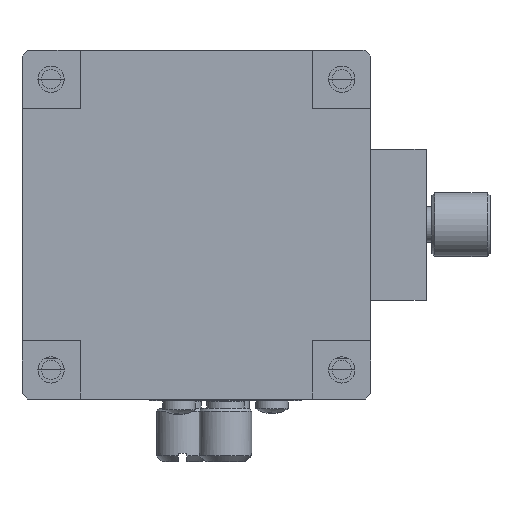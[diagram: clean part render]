
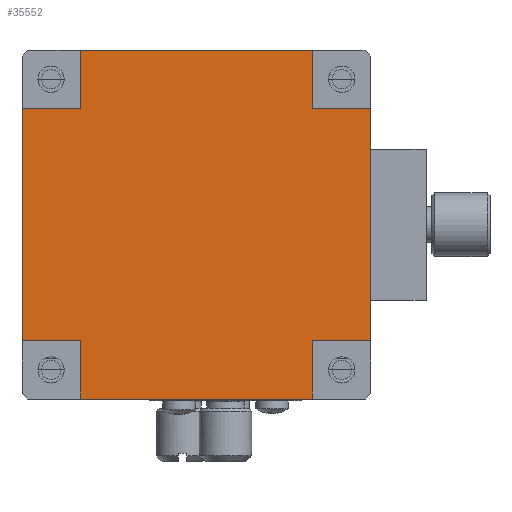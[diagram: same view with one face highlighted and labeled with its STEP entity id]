
A CAD part, front view. The second image highlights one B-rep face of the part: STEP entity #35552.
In plain terms, the highlighted planar face has unit normal (0, -1, 0).
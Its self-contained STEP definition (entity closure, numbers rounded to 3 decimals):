
#47 = EDGE_LOOP ( 'NONE', ( #49908, #24698, #41148, #45620, #40937, #41064, #45623, #17356, #1731, #45186, #38950, #38150 ) ) ;
#172 = EDGE_CURVE ( 'NONE', #12143, #28026, #36243, .T. ) ;
#556 = CARTESIAN_POINT ( 'NONE',  ( 36.897, -16.6, 30.907 ) ) ;
#1171 = CARTESIAN_POINT ( 'NONE',  ( 26.897, -16.6, 90.907 ) ) ;
#1731 = ORIENTED_EDGE ( 'NONE', *, *, #9449, .F. ) ;
#1780 = VERTEX_POINT ( 'NONE', #16676 ) ;
#2602 = DIRECTION ( 'NONE',  ( 0., 0., 1. ) ) ;
#3035 = CARTESIAN_POINT ( 'NONE',  ( -23.103, -16.6, 40.907 ) ) ;
#3746 = CARTESIAN_POINT ( 'NONE',  ( 26.897, -16.6, 90.907 ) ) ;
#3787 = VECTOR ( 'NONE', #2602, 1000. ) ;
#5314 = DIRECTION ( 'NONE',  ( 0., 0., -1. ) ) ;
#5687 = VECTOR ( 'NONE', #49436, 1000. ) ;
#5809 = EDGE_CURVE ( 'NONE', #1780, #28026, #29709, .T. ) ;
#6186 = CARTESIAN_POINT ( 'NONE',  ( 6.897, -16.6, 60.907 ) ) ;
#6778 = EDGE_CURVE ( 'NONE', #48343, #7646, #13045, .T. ) ;
#6939 = LINE ( 'NONE', #22176, #48391 ) ;
#6964 = EDGE_CURVE ( 'NONE', #48343, #1780, #27724, .T. ) ;
#7587 = CARTESIAN_POINT ( 'NONE',  ( 26.897, -16.6, 30.907 ) ) ;
#7646 = VERTEX_POINT ( 'NONE', #10541 ) ;
#7837 = DIRECTION ( 'NONE',  ( 1., 0., 0. ) ) ;
#8013 = CARTESIAN_POINT ( 'NONE',  ( 36.897, -16.6, 90.907 ) ) ;
#8198 = EDGE_CURVE ( 'NONE', #12143, #26354, #29016, .T. ) ;
#8424 = CARTESIAN_POINT ( 'NONE',  ( 36.897, -16.6, 90.907 ) ) ;
#8491 = VERTEX_POINT ( 'NONE', #28893 ) ;
#9394 = DIRECTION ( 'NONE',  ( 0., 0., -1. ) ) ;
#9449 = EDGE_CURVE ( 'NONE', #16136, #8491, #16929, .T. ) ;
#10541 = CARTESIAN_POINT ( 'NONE',  ( -23.103, -16.6, 40.907 ) ) ;
#11630 = AXIS2_PLACEMENT_3D ( 'NONE', #6186, #22164, #49685 ) ;
#12008 = LINE ( 'NONE', #29911, #5687 ) ;
#12143 = VERTEX_POINT ( 'NONE', #3746 ) ;
#12154 = VERTEX_POINT ( 'NONE', #7587 ) ;
#12457 = CARTESIAN_POINT ( 'NONE',  ( 36.897, -16.6, 40.907 ) ) ;
#12698 = DIRECTION ( 'NONE',  ( 0., 0., -1. ) ) ;
#13045 = LINE ( 'NONE', #40613, #13701 ) ;
#13502 = EDGE_CURVE ( 'NONE', #24707, #7646, #26782, .T. ) ;
#13701 = VECTOR ( 'NONE', #5314, 1000. ) ;
#14124 = DIRECTION ( 'NONE',  ( -1., 0., 0. ) ) ;
#15234 = CARTESIAN_POINT ( 'NONE',  ( -13.103, -16.6, 90.907 ) ) ;
#16136 = VERTEX_POINT ( 'NONE', #12457 ) ;
#16676 = CARTESIAN_POINT ( 'NONE',  ( -13.103, -16.6, 80.907 ) ) ;
#16929 = LINE ( 'NONE', #32658, #25412 ) ;
#17101 = VERTEX_POINT ( 'NONE', #25457 ) ;
#17356 = ORIENTED_EDGE ( 'NONE', *, *, #38095, .F. ) ;
#17814 = VECTOR ( 'NONE', #7837, 1000. ) ;
#19665 = EDGE_CURVE ( 'NONE', #47525, #16136, #31485, .T. ) ;
#19701 = CARTESIAN_POINT ( 'NONE',  ( -23.103, -16.6, 80.907 ) ) ;
#19886 = DIRECTION ( 'NONE',  ( 0., 0., -1. ) ) ;
#21415 = PLANE ( 'NONE',  #11630 ) ;
#22164 = DIRECTION ( 'NONE',  ( 0., -1., 0. ) ) ;
#22176 = CARTESIAN_POINT ( 'NONE',  ( 36.897, -16.6, 80.907 ) ) ;
#24592 = VECTOR ( 'NONE', #12698, 1000. ) ;
#24698 = ORIENTED_EDGE ( 'NONE', *, *, #5809, .F. ) ;
#24707 = VERTEX_POINT ( 'NONE', #39657 ) ;
#25412 = VECTOR ( 'NONE', #28819, 1000. ) ;
#25457 = CARTESIAN_POINT ( 'NONE',  ( -13.103, -16.6, 30.907 ) ) ;
#26354 = VERTEX_POINT ( 'NONE', #43862 ) ;
#26782 = LINE ( 'NONE', #3035, #36162 ) ;
#26882 = LINE ( 'NONE', #556, #47579 ) ;
#27724 = LINE ( 'NONE', #19701, #17814 ) ;
#27801 = VECTOR ( 'NONE', #9394, 1000. ) ;
#28026 = VERTEX_POINT ( 'NONE', #15234 ) ;
#28819 = DIRECTION ( 'NONE',  ( -1., 0., 0. ) ) ;
#28893 = CARTESIAN_POINT ( 'NONE',  ( 26.897, -16.6, 40.907 ) ) ;
#29016 = LINE ( 'NONE', #1171, #27801 ) ;
#29260 = CARTESIAN_POINT ( 'NONE',  ( -23.103, -16.6, 80.907 ) ) ;
#29709 = LINE ( 'NONE', #38153, #3787 ) ;
#29911 = CARTESIAN_POINT ( 'NONE',  ( -13.103, -16.6, 30.907 ) ) ;
#31405 = EDGE_CURVE ( 'NONE', #17101, #12154, #26882, .T. ) ;
#31485 = LINE ( 'NONE', #8013, #37323 ) ;
#31661 = EDGE_CURVE ( 'NONE', #26354, #47525, #6939, .T. ) ;
#32658 = CARTESIAN_POINT ( 'NONE',  ( 36.897, -16.6, 40.907 ) ) ;
#33124 = VECTOR ( 'NONE', #47823, 1000. ) ;
#35552 = ADVANCED_FACE ( 'NONE', ( #45346 ), #21415, .T. ) ;
#36162 = VECTOR ( 'NONE', #14124, 1000. ) ;
#36243 = LINE ( 'NONE', #8424, #33124 ) ;
#36398 = LINE ( 'NONE', #39232, #24592 ) ;
#37323 = VECTOR ( 'NONE', #19886, 1000. ) ;
#38095 = EDGE_CURVE ( 'NONE', #8491, #12154, #36398, .T. ) ;
#38150 = ORIENTED_EDGE ( 'NONE', *, *, #8198, .F. ) ;
#38153 = CARTESIAN_POINT ( 'NONE',  ( -13.103, -16.6, 90.907 ) ) ;
#38680 = EDGE_CURVE ( 'NONE', #17101, #24707, #12008, .T. ) ;
#38950 = ORIENTED_EDGE ( 'NONE', *, *, #31661, .F. ) ;
#39232 = CARTESIAN_POINT ( 'NONE',  ( 26.897, -16.6, 30.907 ) ) ;
#39657 = CARTESIAN_POINT ( 'NONE',  ( -13.103, -16.6, 40.907 ) ) ;
#40613 = CARTESIAN_POINT ( 'NONE',  ( -23.103, -16.6, 90.907 ) ) ;
#40937 = ORIENTED_EDGE ( 'NONE', *, *, #13502, .F. ) ;
#41064 = ORIENTED_EDGE ( 'NONE', *, *, #38680, .F. ) ;
#41148 = ORIENTED_EDGE ( 'NONE', *, *, #6964, .F. ) ;
#43862 = CARTESIAN_POINT ( 'NONE',  ( 26.897, -16.6, 80.907 ) ) ;
#45186 = ORIENTED_EDGE ( 'NONE', *, *, #19665, .F. ) ;
#45346 = FACE_OUTER_BOUND ( 'NONE', #47, .T. ) ;
#45620 = ORIENTED_EDGE ( 'NONE', *, *, #6778, .T. ) ;
#45623 = ORIENTED_EDGE ( 'NONE', *, *, #31405, .T. ) ;
#46282 = CARTESIAN_POINT ( 'NONE',  ( 36.897, -16.6, 80.907 ) ) ;
#47167 = DIRECTION ( 'NONE',  ( 1., 0., 0. ) ) ;
#47525 = VERTEX_POINT ( 'NONE', #46282 ) ;
#47579 = VECTOR ( 'NONE', #47167, 1000. ) ;
#47823 = DIRECTION ( 'NONE',  ( -1., 0., 0. ) ) ;
#48343 = VERTEX_POINT ( 'NONE', #29260 ) ;
#48391 = VECTOR ( 'NONE', #49943, 1000. ) ;
#49436 = DIRECTION ( 'NONE',  ( 0., 0., 1. ) ) ;
#49685 = DIRECTION ( 'NONE',  ( -1., 0., 0. ) ) ;
#49908 = ORIENTED_EDGE ( 'NONE', *, *, #172, .T. ) ;
#49943 = DIRECTION ( 'NONE',  ( 1., 0., 0. ) ) ;
